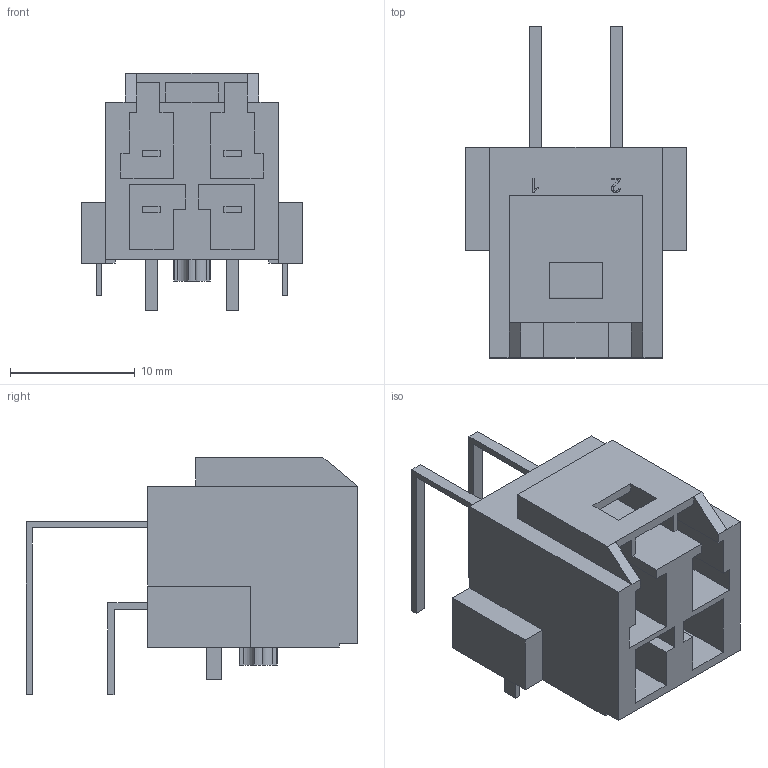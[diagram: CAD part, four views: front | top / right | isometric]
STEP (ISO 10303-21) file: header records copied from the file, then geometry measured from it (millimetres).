
FILE_DESCRIPTION((''),'2;1');
FILE_NAME('2035551114','2019-05-17T',('gga'),(''),'PRO/ENGINEER BY PARAMETRIC TECHNOLOGY CORPORATION, 2016010','PRO/ENGINEER BY PARAMETRIC TECHNOLOGY CORPORATION, 2016010','');
FILE_SCHEMA(('CONFIG_CONTROL_DESIGN'));
Length unit declared in the file: millimetre
Products named in the file (1): 2035551114
Bounding box: 17.77 x 26.6 x 19.01 mm (x, y, z)
Volume: 2828 mm3; surface area: 2316.3 mm2
Topology: 1 solids, 1 shells, 164 faces, 455 edges, 307 vertices
Faces by surface type: plane 147, extrusion 9, cylinder 8
Entity records: 5363 total; most frequent: CARTESIAN_POINT 1118, ORIENTED_EDGE 882, DIRECTION 789, EDGE_CURVE 441, VECTOR 415, LINE 406, VERTEX_POINT 293, AXIS2_PLACEMENT_3D 187
